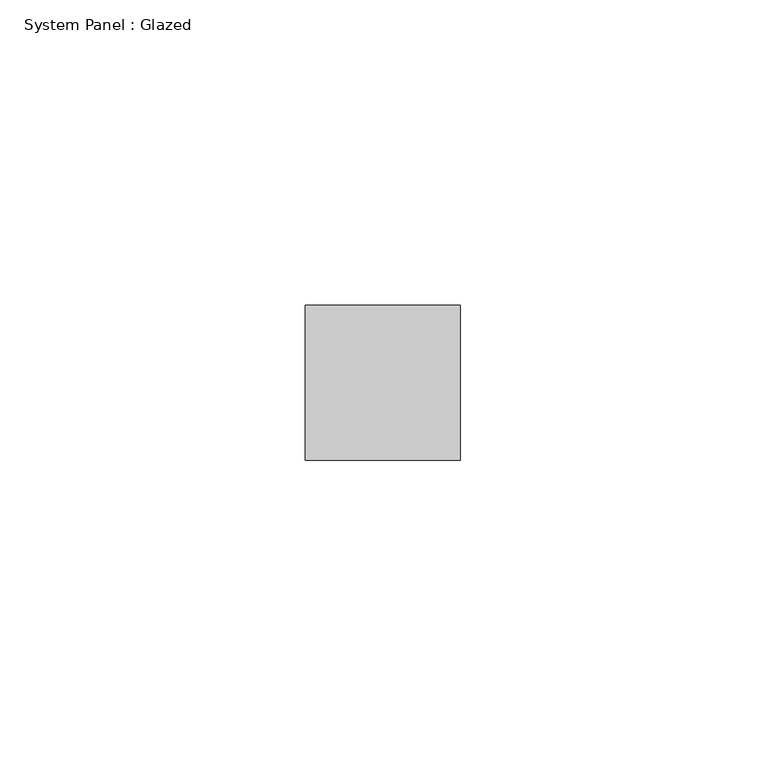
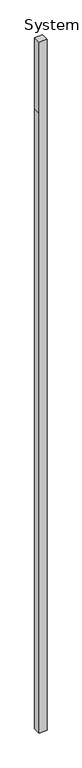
"""IFC4 building model written with IfcOpenShell, lengths in millimetres: plate geometry, System Panel : Glazed."""

from ifc_helpers import new_model, si_unit, frame, origin, place, context, project, spatial, polyline, outline, extrude, source, transform, mapped, element, save


def system_panel_glazed_99e16266(model_context):
    return source(origin(), model_context, "Body", "SweptSolid", [
        extrude(outline(polyline([(0.0, -12.7), (0.0, 12.7), (2101.85, 12.7), (2343.15, 12.7), (2343.15, -12.7), (2101.85, -12.7), (0.0, -12.7)])), frame((0.0, 19.05, 0.0), z_axis=(0.0, 1.0, 0.0), x_axis=(0.0, 0.0, 1.0)), (0.0, 0.0, 1.0), 25.4),
    ])


if __name__ == "__main__":
    model = new_model("IFC4")
    model_context = context("Model", 3, world=origin())
    ifc_project = project(units=[si_unit("LENGTHUNIT", "METRE", prefix="MILLI")], contexts=[model_context])
    site = spatial("IfcSite", under=ifc_project)
    building = spatial("IfcBuilding", under=site)
    placement = place(None, origin())
    system_panel_glazed_shape = system_panel_glazed_99e16266(model_context)
    element("IfcPlate", 1, ObjectType="System Panel : Glazed", at=placement, inside=building, context=model_context, shape_type="MappedRepresentation", body=[
        mapped(system_panel_glazed_shape, transform((0.0, 0.0, 0.0), x_axis=(1.0, 0.0, 0.0), y_axis=(0.0, 1.0, 0.0), z_axis=(0.0, 0.0, 1.0))),
    ])
    save(model, "model.ifc")
